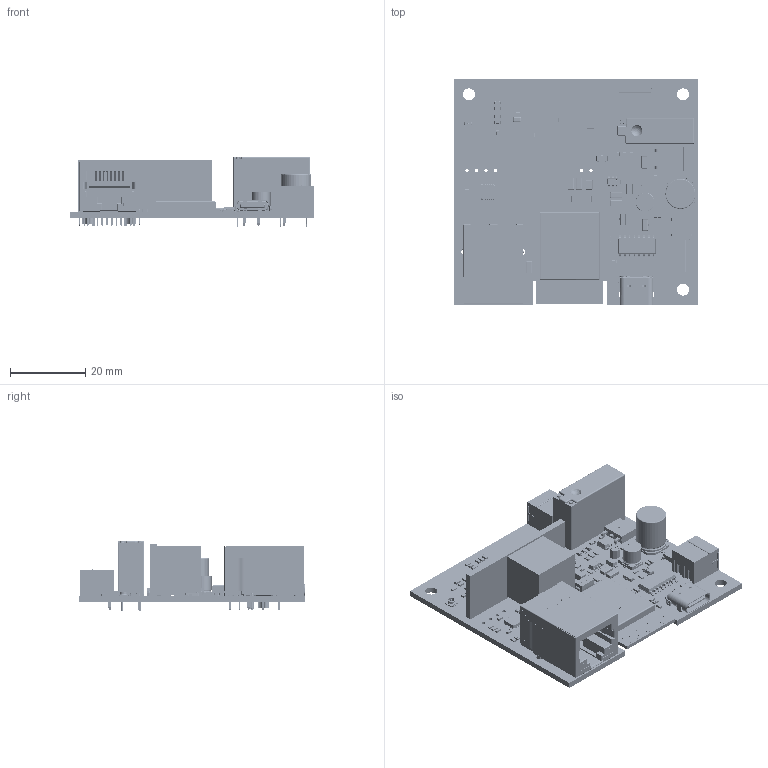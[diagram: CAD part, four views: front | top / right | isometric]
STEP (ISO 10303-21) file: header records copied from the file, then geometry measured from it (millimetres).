
FILE_DESCRIPTION(('Open CASCADE Model'),'2;1');
FILE_NAME('Open CASCADE Shape Model','2025-06-25T23:17:54',('Author'),( 'Open CASCADE'),'Open CASCADE STEP processor 7.5','Open CASCADE 7.5' ,'Unknown');
FILE_SCHEMA(('AUTOMOTIVE_DESIGN { 1 0 10303 214 1 1 1 1 }'));
Length unit declared in the file: millimetre
Products named in the file (292): PCB; Board; Open CASCADE STEP translator 7.5 2.1.1; C43; 0603C; U9; DPAK; U8; ABS10; Würfel; Fusion001; Fusion002; Würfel002; Würfel003; Fusion; Fusion003; Würfel001; ShapeString; ShapeString001; ShapeString002; ShapeString003; C42; e8x8; User Library-ALU-F_Pins_1; User Library-ALU-F_Fuss_1; User Library-ALU-F_K_X_F6rper_1; User Library-ALU-F_Beschriftung_1; C41; C31; TAN-A; C26; 1206C; C30; ALU-C; User Library-ALU-C_Fuss_1; User Library-ALU-C_Pins_1; User Library-ALU-C_Korper_1; User Library-ALU-C_Beschriftnug_1; Y1; HC3225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
Assembly tree (382 placements, depth 4):
  PCB
    Board
      Open CASCADE STEP translator 7.5 2.1.1
    C43
      0603C
    U9
      DPAK
    U8
      ABS10
        Würfel
        Fusion001
        Fusion002
        Würfel002
        Würfel003
        Fusion
        Fusion003
        Würfel001
        ShapeString
        ShapeString001
        ShapeString002
        ShapeString003
    C42
      e8x8
        User Library-ALU-F_Pins_1
        User Library-ALU-F_Fuss_1
        User Library-ALU-F_K_X_F6rper_1
        User Library-ALU-F_Beschriftung_1
    C41
      0603C
    C31
      TAN-A
    C26
      1206C
    C30
      ALU-C
        User Library-ALU-C_Fuss_1
        User Library-ALU-C_Pins_1
        User Library-ALU-C_Korper_1
        User Library-ALU-C_Beschriftnug_1
    Y1
      HC3225
    X4
      U.FL-R-SMT-1
    X3
      691322310002 (rev1)
        691321300002
        6913213000xx_PIN  x2
    X2
      691322310002 (rev1)
        691321300002
        6913213000xx_PIN  x2
    X1
      629722000214
        629722000214_Housing
        629722000214_Pin1_Top
        629722000214_Pin4_Bottom
        629722000214_Pin4_Top  x2
        629722000214_Pin1_Bottom
        629722000214_Pin3_Bottom
        629722000214_Pin3_Top
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Bounding box: 65 x 60 x 18.71 mm (x, y, z)
Volume: 14087.9 mm3; surface area: 26099.7 mm2
Topology: 287 solids, 297 shells, 13628 faces, 35403 edges, 22429 vertices
Faces by surface type: plane 8311, bspline 2461, cylinder 2371, sphere 394, torus 41, cone 32, extrusion 12, revolution 6
Full cylindrical faces by diameter (mm): 0.25 x4, 0.3 x21, 0.5 x2, 0.6 x3, 0.65 x2, 0.9 x16, 1 x2, 1.03 x4, 1.1 x6, 1.28 x1, 1.6 x2, 1.9 x4, 2 x1, 3.2 x3, 3.25 x2
Entity records: 277572 total; most frequent: CARTESIAN_POINT 67672, ORIENTED_EDGE 38880, DIRECTION 35161, EDGE_CURVE 19478, VECTOR 14975, LINE 14963, VERTEX_POINT 12645, AXIS2_PLACEMENT_3D 10090
